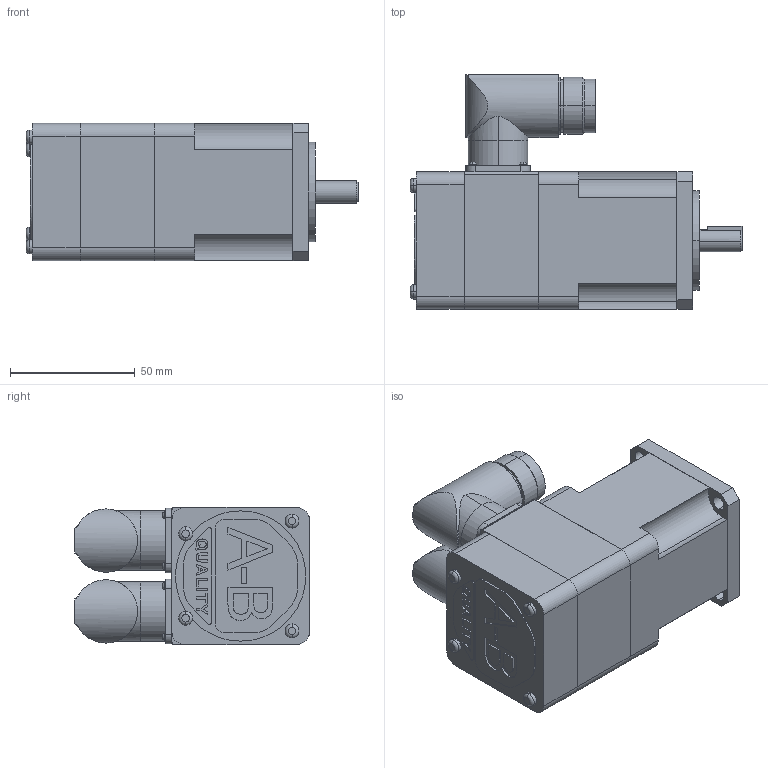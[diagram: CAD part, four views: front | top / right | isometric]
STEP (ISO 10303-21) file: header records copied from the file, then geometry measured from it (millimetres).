
FILE_DESCRIPTION (( 'STEP AP214' ), '1' );
FILE_NAME ('Rockwell Automation-MPL-x1510x-xJ72AA.STEP', '2015-06-30T20:37:07', ( 'Windows User' ), ( '' ), 'SwSTEP 2.0', 'SolidWorks 2015', '' );
FILE_SCHEMA (( 'AUTOMOTIVE_DESIGN' ));
Length unit declared in the file: inch
Products named in the file (5): Rockwell Automation-MPL-x1510x-xJ72AA_MPL-15xx-Power Connector; Rockwell Automation-MPL-x1510x-xJ72AA_MPL-15xx-Shaft-Key_1510-SHAFT-KEYED; Rockwell Automation-MPL-x1510x-xJ72AA_MPL-15xx-Body_1510; Rockwell Automation-MPL-x1510x-xJ72AA; Rockwell Automation-MPL-x1510x-xJ72AA_MPL-15xx-Feedback Connector
Assembly tree (4 placements, depth 2):
  Rockwell Automation-MPL-x1510x-xJ72AA
    Rockwell Automation-MPL-x1510x-xJ72AA_MPL-15xx-Body_1510
    Rockwell Automation-MPL-x1510x-xJ72AA_MPL-15xx-Shaft-Key_1510-SHAFT-KEYED
    Rockwell Automation-MPL-x1510x-xJ72AA_MPL-15xx-Power Connector
    Rockwell Automation-MPL-x1510x-xJ72AA_MPL-15xx-Feedback Connector
Bounding box: 133.27 x 94.15 x 55.12 mm (x, y, z)
Volume: 174140.8 mm3; surface area: 81859.9 mm2
Topology: 8 solids, 8 shells, 504 faces, 1171 edges, 751 vertices
Faces by surface type: plane 210, cylinder 181, torus 48, bspline 34, cone 31
Entity records: 17350 total; most frequent: CARTESIAN_POINT 4866, DIRECTION 2501, ORIENTED_EDGE 2338, EDGE_CURVE 1169, AXIS2_PLACEMENT_3D 946, VERTEX_POINT 751, VECTOR 609, LINE 609
